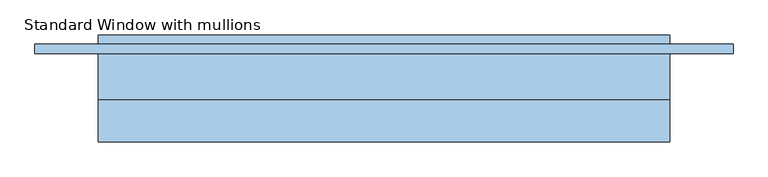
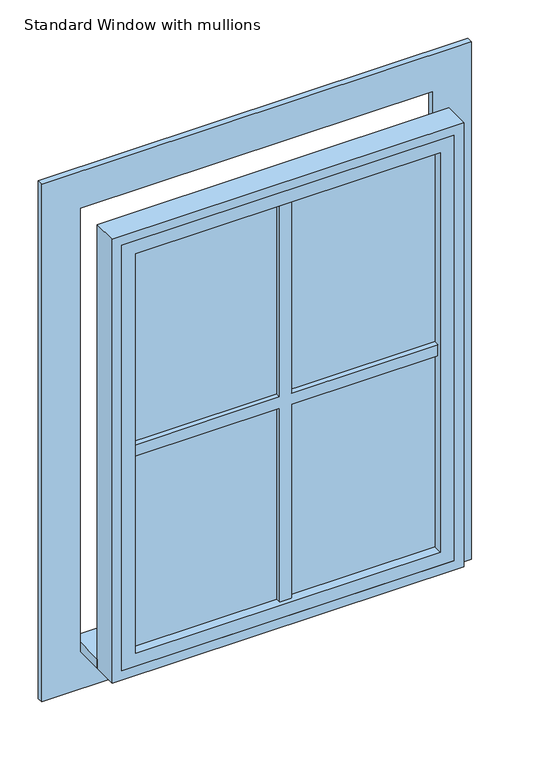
"""IFC4 building model written with IfcOpenShell, lengths in millimetres: window geometry, Standard Window with mullions : 900/1200."""

from ifc_helpers import new_model, si_unit, frame, origin, place, context, project, spatial, polyline, outline, extrude, source, transform, mapped, element, save


def standard_window_with_mullions_4f38f980(model_context):
    return source(origin(), model_context, "Body", "SweptSolid", [
        extrude(outline(polyline([(450.0, 26.9623738), (-450.0, 26.9623738), (-450.0, 130.0), (450.0, 130.0), (450.0, 26.9623738)])), frame((0.0, 0.0, 1200.0), z_axis=(0.0, 0.0, 1.0), x_axis=(1.0, 0.0, 0.0)), (0.0, 0.0, 1.0), 25.0),
        extrude(outline(polyline([(2500.0, -550.0), (1100.0, -550.0), (1100.0, 550.0), (2500.0, 550.0), (2500.0, -550.0)]), holes=[polyline([(2400.0, -450.0), (2400.0, 450.0), (1200.0, 450.0), (1200.0, -450.0), (2400.0, -450.0)])]), frame((0.0, 100.0, 0.0), z_axis=(0.0, 1.0, 0.0), x_axis=(0.0, 0.0, 1.0)), (0.0, 0.0, 1.0), 15.0),
        extrude(outline(polyline([(2375.0, -425.0), (1225.0, -425.0), (1225.0, 425.0), (2375.0, 425.0), (2375.0, -425.0)]), holes=[polyline([(2340.0, -390.0), (2340.0, 390.0), (1260.0, 390.0), (1260.0, -390.0), (2340.0, -390.0)])]), frame((0.0, -39.0188131, 0.0), z_axis=(0.0, 1.0, 0.0), x_axis=(0.0, 0.0, 1.0)), (0.0, 0.0, 1.0), 50.5),
        extrude(outline(polyline([(1200.0, -450.0), (1200.0, 450.0), (2400.0, 450.0), (2400.0, -450.0), (1200.0, -450.0)]), holes=[polyline([(1225.0, -425.0), (2375.0, -425.0), (2375.0, 425.0), (1225.0, 425.0), (1225.0, -425.0)])]), frame((0.0, -39.0188131, 0.0), z_axis=(0.0, 1.0, 0.0), x_axis=(0.0, 0.0, 1.0)), (0.0, 0.0, 1.0), 65.9811869),
        extrude(outline(polyline([(1815.0, 390.0), (1815.0, 15.0), (2340.0, 15.0), (2340.0, -15.0), (1815.0, -15.0), (1815.0, -390.0), (1785.0, -390.0), (1785.0, -15.0), (1260.0, -15.0), (1260.0, 15.0), (1785.0, 15.0), (1785.0, 390.0), (1815.0, 390.0)])), frame((0.0, -28.5188131, 0.0), z_axis=(0.0, 1.0, 0.0), x_axis=(0.0, 0.0, 1.0)), (0.0, 0.0, 1.0), 20.0),
        extrude(outline(polyline([(390.0, -15.5188131), (-390.0, -15.5188131), (-390.0, -13.5188131), (390.0, -13.5188131), (390.0, -15.5188131)])), frame((0.0, 0.0, 1260.0), z_axis=(0.0, 0.0, 1.0), x_axis=(1.0, 0.0, 0.0)), (0.0, 0.0, 1.0), 1080.0),
    ])


if __name__ == "__main__":
    model = new_model("IFC4")
    model_context = context("Model", 3, world=origin())
    ifc_project = project(units=[si_unit("LENGTHUNIT", "METRE", prefix="MILLI")], contexts=[model_context])
    site = spatial("IfcSite", under=ifc_project)
    building = spatial("IfcBuilding", under=site)
    placement = place(None, origin())
    standard_window_with_mullions_shape = standard_window_with_mullions_4f38f980(model_context)
    element("IfcWindow", 1, ObjectType="Standard Window with mullions : 900/1200", at=placement, inside=building, context=model_context, shape_type="MappedRepresentation", body=[
        mapped(standard_window_with_mullions_shape, transform((0.0, 0.0, 0.0), x_axis=(1.0, 0.0, 0.0), y_axis=(0.0, 1.0, 0.0), z_axis=(0.0, 0.0, 1.0))),
    ])
    save(model, "model.ifc")
